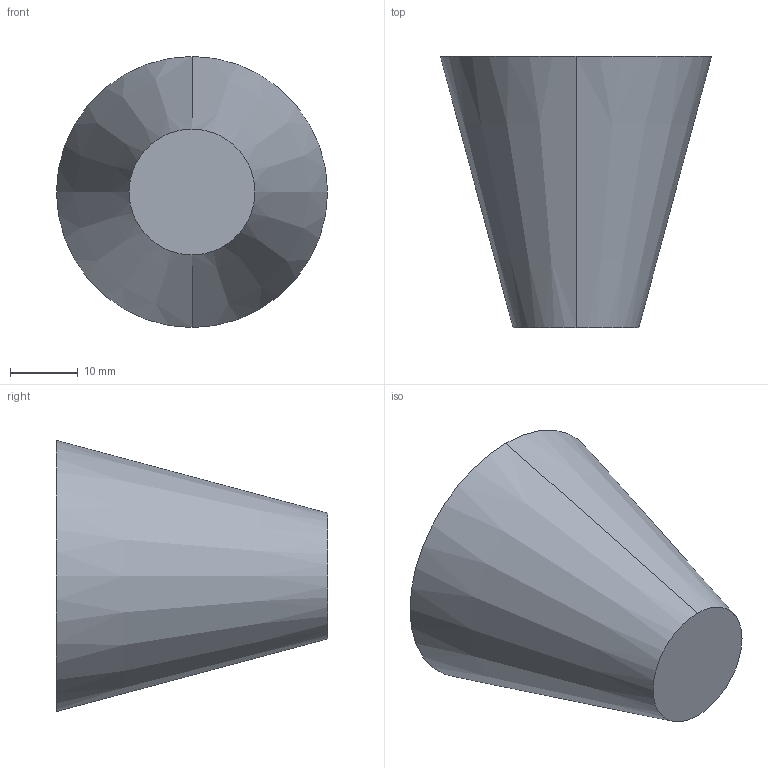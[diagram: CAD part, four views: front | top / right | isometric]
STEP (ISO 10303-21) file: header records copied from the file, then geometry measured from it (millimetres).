
FILE_DESCRIPTION((''),'2;1');
FILE_NAME('','2014-12-18T',(''),(''),'PRO/ENGINEER BY PARAMETRIC TECHNOLOGY CORPORATION, 2003250','PRO/ENGINEER BY PARAMETRIC TECHNOLOGY CORPORATION, 2003250','');
FILE_SCHEMA(('CONFIG_CONTROL_DESIGN'));
Length unit declared in the file: millimetre
Bounding box: 40 x 40 x 40 mm (x, y, z)
Volume: 28140.2 mm3; surface area: 5336.8 mm2
Topology: 1 solids, 1 shells, 4 faces, 6 edges, 4 vertices
Faces by surface type: plane 2, cone 2
Entity records: 132 total; most frequent: DIRECTION 18, CARTESIAN_POINT 14, ORIENTED_EDGE 12, AXIS2_PLACEMENT_3D 8, EDGE_CURVE 6, VERTEX_POINT 4, EDGE_LOOP 4, FACE_OUTER_BOUND 4
